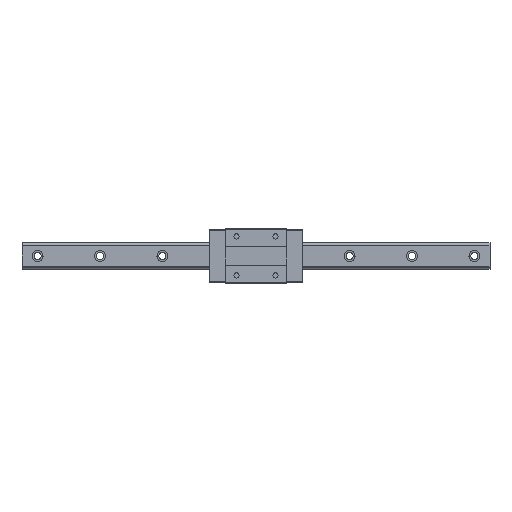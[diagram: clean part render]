
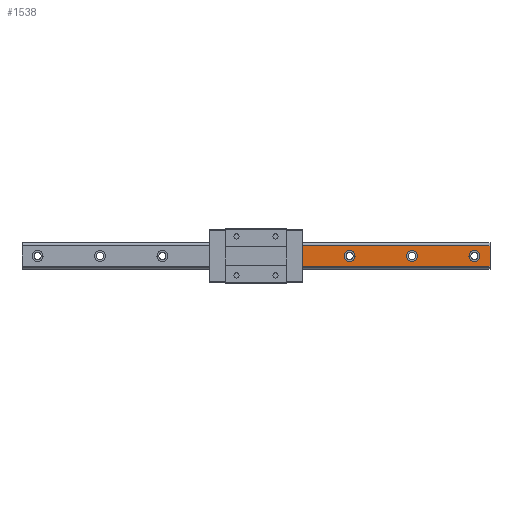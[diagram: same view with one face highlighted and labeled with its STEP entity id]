
A CAD part, top view. The second image highlights one B-rep face of the part: STEP entity #1538.
In plain terms, the highlighted planar face has unit normal (0, 0, 1).
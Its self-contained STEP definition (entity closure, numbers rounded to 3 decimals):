
#10 = CARTESIAN_POINT ( 'NONE',  ( 120., 0., 26. ) ) ;
#21 = VECTOR ( 'NONE', #2409, 1000. ) ;
#105 = DIRECTION ( 'NONE',  ( -1., 0., 0. ) ) ;
#217 = DIRECTION ( 'NONE',  ( 0., 0., -1. ) ) ;
#312 = EDGE_CURVE ( 'NONE', #2625, #5224, #1177, .T. ) ;
#331 = AXIS2_PLACEMENT_3D ( 'NONE', #3837, #3058, #3921 ) ;
#334 = AXIS2_PLACEMENT_3D ( 'NONE', #1228, #819, #3721 ) ;
#355 = CARTESIAN_POINT ( 'NONE',  ( 120., 0., 26. ) ) ;
#527 = FACE_BOUND ( 'NONE', #3979, .T. ) ;
#546 = CARTESIAN_POINT ( 'NONE',  ( 193., 0., 26. ) ) ;
#571 = VECTOR ( 'NONE', #5255, 1000. ) ;
#605 = ORIENTED_EDGE ( 'NONE', *, *, #5331, .F. ) ;
#701 = VECTOR ( 'NONE', #3275, 1000. ) ;
#746 = LINE ( 'NONE', #1560, #21 ) ;
#798 = DIRECTION ( 'NONE',  ( 0., 0., -1. ) ) ;
#819 = DIRECTION ( 'NONE',  ( 0., 0., -1. ) ) ;
#840 = DIRECTION ( 'NONE',  ( -1., 0., 0. ) ) ;
#883 = EDGE_CURVE ( 'NONE', #2403, #1023, #2777, .T. ) ;
#919 = AXIS2_PLACEMENT_3D ( 'NONE', #3919, #217, #105 ) ;
#949 = EDGE_LOOP ( 'NONE', ( #4310, #1691 ) ) ;
#982 = EDGE_CURVE ( 'NONE', #1928, #1618, #1893, .T. ) ;
#1023 = VERTEX_POINT ( 'NONE', #2088 ) ;
#1177 = CIRCLE ( 'NONE', #919, 7. ) ;
#1228 = CARTESIAN_POINT ( 'NONE',  ( 200., 0., 26. ) ) ;
#1261 = LINE ( 'NONE', #1616, #701 ) ;
#1274 = DIRECTION ( 'NONE',  ( 1., 0., 0. ) ) ;
#1368 = CIRCLE ( 'NONE', #334, 7. ) ;
#1370 = ORIENTED_EDGE ( 'NONE', *, *, #2193, .T. ) ;
#1376 = ORIENTED_EDGE ( 'NONE', *, *, #5207, .T. ) ;
#1538 = ADVANCED_FACE ( 'NONE', ( #527, #4739, #4325, #3950 ), #5167, .F. ) ;
#1555 = CARTESIAN_POINT ( 'NONE',  ( 207., 0., 26. ) ) ;
#1560 = CARTESIAN_POINT ( 'NONE',  ( 300., 13.408, 26. ) ) ;
#1574 = CIRCLE ( 'NONE', #5217, 7. ) ;
#1616 = CARTESIAN_POINT ( 'NONE',  ( 300., 13.6, 26. ) ) ;
#1618 = VERTEX_POINT ( 'NONE', #1555 ) ;
#1669 = CARTESIAN_POINT ( 'NONE',  ( 280., 0., 26. ) ) ;
#1691 = ORIENTED_EDGE ( 'NONE', *, *, #2622, .T. ) ;
#1744 = CARTESIAN_POINT ( 'NONE',  ( 300., -13.408, 26. ) ) ;
#1873 = EDGE_CURVE ( 'NONE', #1618, #1928, #1368, .T. ) ;
#1893 = CIRCLE ( 'NONE', #2324, 7. ) ;
#1907 = VECTOR ( 'NONE', #1274, 1000. ) ;
#1917 = CARTESIAN_POINT ( 'NONE',  ( 60.25, -13.408, 26. ) ) ;
#1928 = VERTEX_POINT ( 'NONE', #546 ) ;
#1953 = CARTESIAN_POINT ( 'NONE',  ( 273., 0., 26. ) ) ;
#1992 = VERTEX_POINT ( 'NONE', #1744 ) ;
#2005 = CARTESIAN_POINT ( 'NONE',  ( 287., 0., 26. ) ) ;
#2030 = AXIS2_PLACEMENT_3D ( 'NONE', #355, #4951, #4162 ) ;
#2088 = CARTESIAN_POINT ( 'NONE',  ( 60.25, 13.408, 26. ) ) ;
#2103 = DIRECTION ( 'NONE',  ( -1., 0., 0. ) ) ;
#2112 = DIRECTION ( 'NONE',  ( -1., 0., 0. ) ) ;
#2193 = EDGE_CURVE ( 'NONE', #2403, #1992, #3767, .T. ) ;
#2255 = VERTEX_POINT ( 'NONE', #3259 ) ;
#2324 = AXIS2_PLACEMENT_3D ( 'NONE', #4141, #4165, #840 ) ;
#2334 = VERTEX_POINT ( 'NONE', #5150 ) ;
#2403 = VERTEX_POINT ( 'NONE', #3071 ) ;
#2409 = DIRECTION ( 'NONE',  ( -1., 0., 0. ) ) ;
#2574 = EDGE_LOOP ( 'NONE', ( #1376, #5092, #1370, #605 ) ) ;
#2606 = EDGE_CURVE ( 'NONE', #2967, #2255, #2638, .T. ) ;
#2622 = EDGE_CURVE ( 'NONE', #2255, #2967, #3327, .T. ) ;
#2625 = VERTEX_POINT ( 'NONE', #2005 ) ;
#2638 = CIRCLE ( 'NONE', #2030, 7. ) ;
#2777 = LINE ( 'NONE', #1917, #571 ) ;
#2812 = ORIENTED_EDGE ( 'NONE', *, *, #312, .T. ) ;
#2884 = EDGE_LOOP ( 'NONE', ( #4697, #5258 ) ) ;
#2967 = VERTEX_POINT ( 'NONE', #4781 ) ;
#3058 = DIRECTION ( 'NONE',  ( 0., 0., -1. ) ) ;
#3071 = CARTESIAN_POINT ( 'NONE',  ( 60.25, -13.408, 26. ) ) ;
#3259 = CARTESIAN_POINT ( 'NONE',  ( 113., 0., 26. ) ) ;
#3275 = DIRECTION ( 'NONE',  ( 0., -1., 0. ) ) ;
#3327 = CIRCLE ( 'NONE', #4713, 7. ) ;
#3721 = DIRECTION ( 'NONE',  ( -1., 0., 0. ) ) ;
#3737 = CARTESIAN_POINT ( 'NONE',  ( 300., -13.408, 26. ) ) ;
#3767 = LINE ( 'NONE', #3737, #1907 ) ;
#3837 = CARTESIAN_POINT ( 'NONE',  ( 300., 0., 26. ) ) ;
#3919 = CARTESIAN_POINT ( 'NONE',  ( 280., 0., 26. ) ) ;
#3921 = DIRECTION ( 'NONE',  ( 0., -1., 0. ) ) ;
#3950 = FACE_OUTER_BOUND ( 'NONE', #2574, .T. ) ;
#3979 = EDGE_LOOP ( 'NONE', ( #2812, #4256 ) ) ;
#4105 = EDGE_CURVE ( 'NONE', #5224, #2625, #1574, .T. ) ;
#4141 = CARTESIAN_POINT ( 'NONE',  ( 200., 0., 26. ) ) ;
#4162 = DIRECTION ( 'NONE',  ( -1., 0., 0. ) ) ;
#4165 = DIRECTION ( 'NONE',  ( 0., 0., -1. ) ) ;
#4256 = ORIENTED_EDGE ( 'NONE', *, *, #4105, .T. ) ;
#4310 = ORIENTED_EDGE ( 'NONE', *, *, #2606, .T. ) ;
#4325 = FACE_BOUND ( 'NONE', #949, .T. ) ;
#4697 = ORIENTED_EDGE ( 'NONE', *, *, #1873, .T. ) ;
#4713 = AXIS2_PLACEMENT_3D ( 'NONE', #10, #4872, #2112 ) ;
#4739 = FACE_BOUND ( 'NONE', #2884, .T. ) ;
#4781 = CARTESIAN_POINT ( 'NONE',  ( 127., 0., 26. ) ) ;
#4872 = DIRECTION ( 'NONE',  ( 0., 0., -1. ) ) ;
#4951 = DIRECTION ( 'NONE',  ( 0., 0., -1. ) ) ;
#5092 = ORIENTED_EDGE ( 'NONE', *, *, #883, .F. ) ;
#5150 = CARTESIAN_POINT ( 'NONE',  ( 300., 13.408, 26. ) ) ;
#5167 = PLANE ( 'NONE',  #331 ) ;
#5207 = EDGE_CURVE ( 'NONE', #2334, #1023, #746, .T. ) ;
#5217 = AXIS2_PLACEMENT_3D ( 'NONE', #1669, #798, #2103 ) ;
#5224 = VERTEX_POINT ( 'NONE', #1953 ) ;
#5255 = DIRECTION ( 'NONE',  ( 0., 1., 0. ) ) ;
#5258 = ORIENTED_EDGE ( 'NONE', *, *, #982, .T. ) ;
#5331 = EDGE_CURVE ( 'NONE', #2334, #1992, #1261, .T. ) ;
